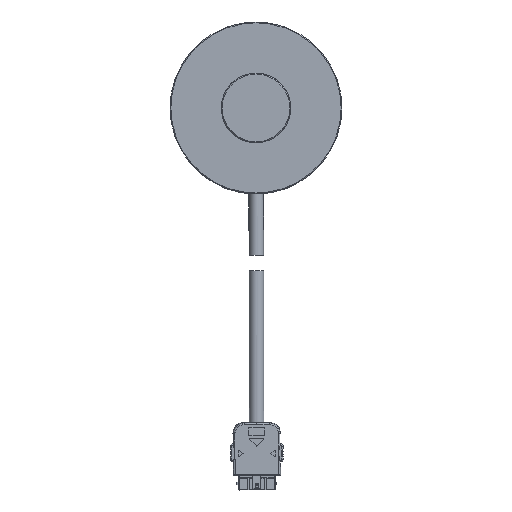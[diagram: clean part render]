
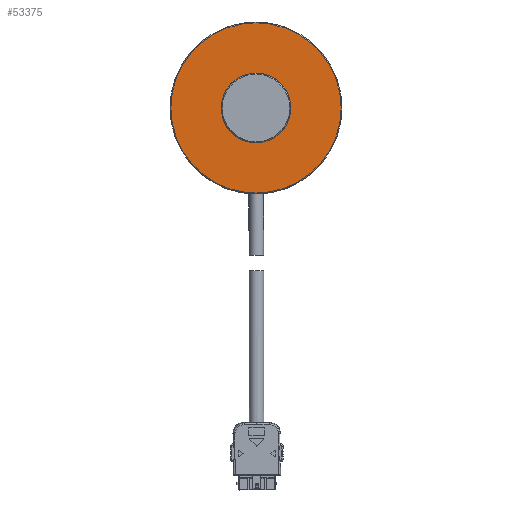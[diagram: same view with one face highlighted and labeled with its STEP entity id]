
A CAD part, front view. The second image highlights one B-rep face of the part: STEP entity #53375.
In plain terms, the highlighted planar face has unit normal (0, -1, 0).
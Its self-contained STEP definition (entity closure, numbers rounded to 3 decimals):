
#713 = CARTESIAN_POINT ( 'NONE',  ( 0., 0., 12. ) ) ;
#2263 = CIRCLE ( 'NONE', #37267, 32.2 ) ;
#2625 = CARTESIAN_POINT ( 'NONE',  ( 0., 0., 0. ) ) ;
#7202 = DIRECTION ( 'NONE',  ( 0., 0., -1. ) ) ;
#7550 = DIRECTION ( 'NONE',  ( 0., -1., 0. ) ) ;
#11731 = AXIS2_PLACEMENT_3D ( 'NONE', #12112, #90184, #27153 ) ;
#12112 = CARTESIAN_POINT ( 'NONE',  ( 0., 0., 0. ) ) ;
#13667 = VERTEX_POINT ( 'NONE', #58594 ) ;
#14496 = DIRECTION ( 'NONE',  ( 0., -1., 0. ) ) ;
#18427 = ORIENTED_EDGE ( 'NONE', *, *, #48205, .T. ) ;
#19384 = EDGE_CURVE ( 'NONE', #50671, #36421, #82906, .T. ) ;
#20516 = CIRCLE ( 'NONE', #11731, 12. ) ;
#26016 = AXIS2_PLACEMENT_3D ( 'NONE', #41965, #14496, #7202 ) ;
#26549 = VERTEX_POINT ( 'NONE', #48798 ) ;
#27153 = DIRECTION ( 'NONE',  ( 0., 0., -1. ) ) ;
#28661 = DIRECTION ( 'NONE',  ( 0., 1., 0. ) ) ;
#33024 = EDGE_CURVE ( 'NONE', #13667, #26549, #2263, .T. ) ;
#35546 = PLANE ( 'NONE',  #89175 ) ;
#36421 = VERTEX_POINT ( 'NONE', #713 ) ;
#36665 = ORIENTED_EDGE ( 'NONE', *, *, #19384, .F. ) ;
#37036 = AXIS2_PLACEMENT_3D ( 'NONE', #2625, #37824, #65671 ) ;
#37267 = AXIS2_PLACEMENT_3D ( 'NONE', #57354, #7550, #78836 ) ;
#37824 = DIRECTION ( 'NONE',  ( 0., -1., 0. ) ) ;
#37842 = EDGE_LOOP ( 'NONE', ( #70052, #18427 ) ) ;
#41965 = CARTESIAN_POINT ( 'NONE',  ( 0., 0., 0. ) ) ;
#42873 = FACE_OUTER_BOUND ( 'NONE', #37842, .T. ) ;
#42879 = EDGE_CURVE ( 'NONE', #36421, #50671, #20516, .T. ) ;
#45832 = CARTESIAN_POINT ( 'NONE',  ( 0., 0., -12. ) ) ;
#48205 = EDGE_CURVE ( 'NONE', #26549, #13667, #63292, .T. ) ;
#48798 = CARTESIAN_POINT ( 'NONE',  ( 0., 0., -32.2 ) ) ;
#49237 = FACE_BOUND ( 'NONE', #49723, .T. ) ;
#49723 = EDGE_LOOP ( 'NONE', ( #86856, #36665 ) ) ;
#50671 = VERTEX_POINT ( 'NONE', #45832 ) ;
#53375 = ADVANCED_FACE ( 'NONE', ( #42873, #49237 ), #35546, .F. ) ;
#57354 = CARTESIAN_POINT ( 'NONE',  ( 0., 0., 0. ) ) ;
#58594 = CARTESIAN_POINT ( 'NONE',  ( 0., 0., 32.2 ) ) ;
#63292 = CIRCLE ( 'NONE', #37036, 32.2 ) ;
#63404 = CARTESIAN_POINT ( 'NONE',  ( 0., 0., 0. ) ) ;
#65671 = DIRECTION ( 'NONE',  ( 0., 0., 1. ) ) ;
#70052 = ORIENTED_EDGE ( 'NONE', *, *, #33024, .T. ) ;
#78836 = DIRECTION ( 'NONE',  ( 0., 0., 1. ) ) ;
#82906 = CIRCLE ( 'NONE', #26016, 12. ) ;
#84407 = DIRECTION ( 'NONE',  ( 0., 0., 1. ) ) ;
#86856 = ORIENTED_EDGE ( 'NONE', *, *, #42879, .F. ) ;
#89175 = AXIS2_PLACEMENT_3D ( 'NONE', #63404, #28661, #84407 ) ;
#90184 = DIRECTION ( 'NONE',  ( 0., -1., 0. ) ) ;
